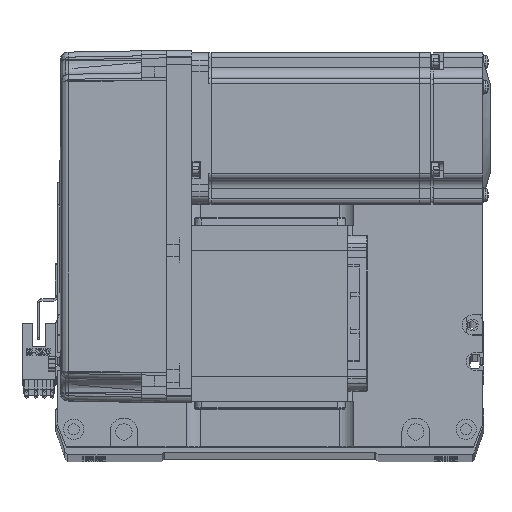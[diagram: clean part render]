
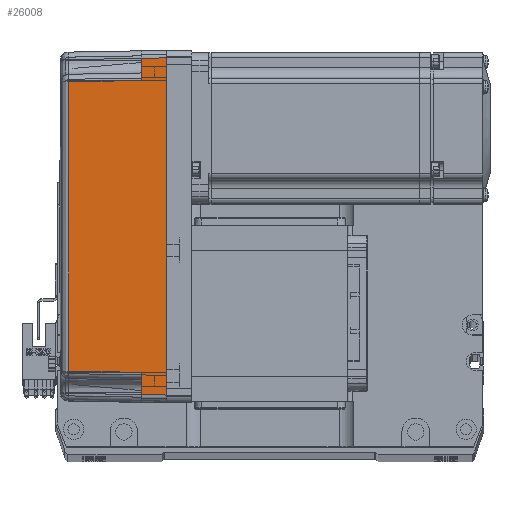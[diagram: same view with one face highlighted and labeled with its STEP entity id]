
A CAD part, top view. The second image highlights one B-rep face of the part: STEP entity #26008.
In plain terms, the highlighted planar face has unit normal (-0.018, 0, 1) as drawn and (0, 1, 0.017) by its records, which use the part's own axes.
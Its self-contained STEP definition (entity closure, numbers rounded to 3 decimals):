
#287 = EDGE_CURVE ( 'NONE', #19237, #38541, #42720, .T. ) ;
#346 = DIRECTION ( 'NONE',  ( 1., 0., 0. ) ) ;
#404 = VECTOR ( 'NONE', #7050, 1000. ) ;
#3147 = CARTESIAN_POINT ( 'NONE',  ( -57.495, 35.32, 38.985 ) ) ;
#7050 = DIRECTION ( 'NONE',  ( -0.017, -0.017, 1. ) ) ;
#8048 = CARTESIAN_POINT ( 'NONE',  ( -19.165, 35.316, 39.181 ) ) ;
#8714 = DIRECTION ( 'NONE',  ( 0.017, -0.017, 1. ) ) ;
#9677 = EDGE_CURVE ( 'NONE', #9989, #53402, #44156, .T. ) ;
#9989 = VERTEX_POINT ( 'NONE', #44185 ) ;
#12692 = CARTESIAN_POINT ( 'NONE',  ( 70., 35.825, 10. ) ) ;
#13050 = CARTESIAN_POINT ( 'NONE',  ( -58., 35.825, 10. ) ) ;
#13082 = VECTOR ( 'NONE', #53762, 1000. ) ;
#13196 = VERTEX_POINT ( 'NONE', #56046 ) ;
#13792 = CARTESIAN_POINT ( 'NONE',  ( 19.165, 35.316, 39.181 ) ) ;
#14655 = LINE ( 'NONE', #28275, #13082 ) ;
#15058 = VERTEX_POINT ( 'NONE', #56905 ) ;
#16593 = ORIENTED_EDGE ( 'NONE', *, *, #38947, .T. ) ;
#17225 = EDGE_CURVE ( 'NONE', #15058, #19237, #23345, .T. ) ;
#19237 = VERTEX_POINT ( 'NONE', #55983 ) ;
#19486 = PLANE ( 'NONE',  #21967 ) ;
#20011 = VERTEX_POINT ( 'NONE', #56190 ) ;
#20104 = CARTESIAN_POINT ( 'NONE',  ( 0., 36., 0. ) ) ;
#21967 = AXIS2_PLACEMENT_3D ( 'NONE', #28707, #23861, #59076 ) ;
#22143 = EDGE_CURVE ( 'NONE', #20011, #53402, #42263, .T. ) ;
#22492 = EDGE_LOOP ( 'NONE', ( #34702, #45464, #48857, #16593, #25987, #51426, #36774, #55966 ) ) ;
#23345 = LINE ( 'NONE', #39274, #50822 ) ;
#23649 = FACE_OUTER_BOUND ( 'NONE', #22492, .T. ) ;
#23861 = DIRECTION ( 'NONE',  ( 0., 1., 0.017 ) ) ;
#23908 = VECTOR ( 'NONE', #53820, 1000. ) ;
#24046 = B_SPLINE_CURVE_WITH_KNOTS ( 'NONE', 3,
 ( #3147, #8048, #13792, #63970 ),
 .UNSPECIFIED., .F., .F.,
 ( 4, 4 ),
 ( 0., 1. ),
 .UNSPECIFIED. ) ;
#24793 = CARTESIAN_POINT ( 'NONE',  ( 66.826, 35.825, 10. ) ) ;
#25987 = ORIENTED_EDGE ( 'NONE', *, *, #27916, .T. ) ;
#26008 = ADVANCED_FACE ( 'NONE', ( #23649 ), #19486, .T. ) ;
#27916 = EDGE_CURVE ( 'NONE', #28847, #9989, #14655, .T. ) ;
#28275 = CARTESIAN_POINT ( 'NONE',  ( 57.495, 35.32, 38.985 ) ) ;
#28457 = CARTESIAN_POINT ( 'NONE',  ( 67.001, 36.001, -0.052 ) ) ;
#28602 = CARTESIAN_POINT ( 'NONE',  ( -58., 35.825, 10. ) ) ;
#28707 = CARTESIAN_POINT ( 'NONE',  ( 70., 36., 0. ) ) ;
#28847 = VERTEX_POINT ( 'NONE', #29417 ) ;
#29417 = CARTESIAN_POINT ( 'NONE',  ( 57.495, 35.32, 38.985 ) ) ;
#32197 = VECTOR ( 'NONE', #346, 1000. ) ;
#34702 = ORIENTED_EDGE ( 'NONE', *, *, #17225, .T. ) ;
#36081 = LINE ( 'NONE', #20104, #32197 ) ;
#36774 = ORIENTED_EDGE ( 'NONE', *, *, #22143, .F. ) ;
#38541 = VERTEX_POINT ( 'NONE', #28602 ) ;
#38720 = DIRECTION ( 'NONE',  ( 0.017, -0.017, 1. ) ) ;
#38947 = EDGE_CURVE ( 'NONE', #13196, #28847, #24046, .T. ) ;
#39274 = CARTESIAN_POINT ( 'NONE',  ( -67., 36., 0. ) ) ;
#42263 = LINE ( 'NONE', #28457, #404 ) ;
#42720 = LINE ( 'NONE', #12692, #23908 ) ;
#43064 = VECTOR ( 'NONE', #38720, 1000. ) ;
#43608 = EDGE_CURVE ( 'NONE', #15058, #20011, #36081, .T. ) ;
#44156 = LINE ( 'NONE', #54917, #64653 ) ;
#44185 = CARTESIAN_POINT ( 'NONE',  ( 58., 35.825, 10. ) ) ;
#45464 = ORIENTED_EDGE ( 'NONE', *, *, #287, .T. ) ;
#48857 = ORIENTED_EDGE ( 'NONE', *, *, #65044, .T. ) ;
#50822 = VECTOR ( 'NONE', #8714, 1000. ) ;
#51426 = ORIENTED_EDGE ( 'NONE', *, *, #9677, .T. ) ;
#52544 = LINE ( 'NONE', #13050, #43064 ) ;
#53402 = VERTEX_POINT ( 'NONE', #24793 ) ;
#53762 = DIRECTION ( 'NONE',  ( 0.017, 0.017, -1. ) ) ;
#53820 = DIRECTION ( 'NONE',  ( 1., 0., 0. ) ) ;
#54917 = CARTESIAN_POINT ( 'NONE',  ( 70., 35.825, 10. ) ) ;
#55966 = ORIENTED_EDGE ( 'NONE', *, *, #43608, .F. ) ;
#55983 = CARTESIAN_POINT ( 'NONE',  ( -66.826, 35.825, 10. ) ) ;
#56046 = CARTESIAN_POINT ( 'NONE',  ( -57.495, 35.32, 38.985 ) ) ;
#56190 = CARTESIAN_POINT ( 'NONE',  ( 67., 36., 0. ) ) ;
#56905 = CARTESIAN_POINT ( 'NONE',  ( -67., 36., 0. ) ) ;
#59076 = DIRECTION ( 'NONE',  ( 0., -0.017, 1. ) ) ;
#60185 = DIRECTION ( 'NONE',  ( 1., 0., 0. ) ) ;
#63970 = CARTESIAN_POINT ( 'NONE',  ( 57.495, 35.32, 38.985 ) ) ;
#64653 = VECTOR ( 'NONE', #60185, 1000. ) ;
#65044 = EDGE_CURVE ( 'NONE', #38541, #13196, #52544, .T. ) ;
